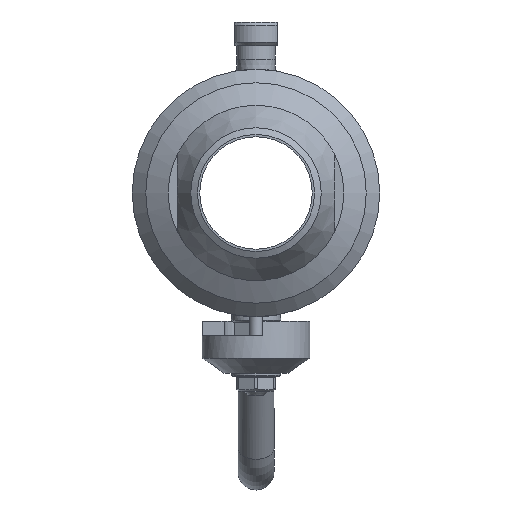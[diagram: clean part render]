
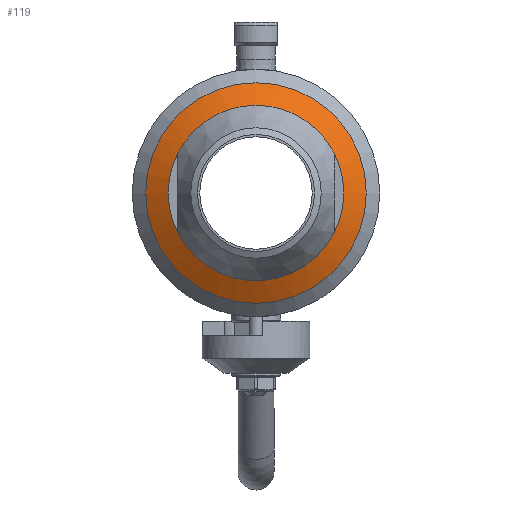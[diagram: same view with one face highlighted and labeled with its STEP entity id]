
A CAD part, left-side view. The second image highlights one B-rep face of the part: STEP entity #119.
In plain terms, the highlighted conical face has half-angle 60 degrees and reference radius 44 mm.
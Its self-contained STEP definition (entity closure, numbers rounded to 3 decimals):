
#119=ADVANCED_FACE('',(#1093),#1095,.T.);
#1093=FACE_OUTER_BOUND('',#1094,.T.);
#1094=EDGE_LOOP('',(#2146,#2147,#2148,#2149,#2150,#2151,#2152,#2153));
#1095=CONICAL_SURFACE('',#1096,44.,1.047);
#1096=AXIS2_PLACEMENT_3D('',#1097,#1098,#1099);
#1097=CARTESIAN_POINT('',(-43.113,0.,0.));
#1098=DIRECTION('',(1.,0.,0.));
#1099=DIRECTION('',(0.,0.,1.));
#2146=ORIENTED_EDGE('',*,*,#3326,.T.);
#2147=ORIENTED_EDGE('',*,*,#3327,.T.);
#2148=ORIENTED_EDGE('',*,*,#3328,.F.);
#2149=ORIENTED_EDGE('',*,*,#3288,.F.);
#2150=ORIENTED_EDGE('',*,*,#3328,.T.);
#2151=ORIENTED_EDGE('',*,*,#3329,.T.);
#2152=ORIENTED_EDGE('',*,*,#3330,.T.);
#2153=ORIENTED_EDGE('',*,*,#3331,.T.);
#3288=EDGE_CURVE('',#3592,#3592,#3594,.T.);
#3326=EDGE_CURVE('',#3664,#3665,#3666,.T.);
#3327=EDGE_CURVE('',#3665,#3667,#3668,.T.);
#3328=EDGE_CURVE('',#3592,#3667,#3669,.T.);
#3329=EDGE_CURVE('',#3667,#3670,#3671,.T.);
#3330=EDGE_CURVE('',#3670,#3672,#3673,.T.);
#3331=EDGE_CURVE('',#3672,#3664,#3674,.T.);
#3592=VERTEX_POINT('',#4498);
#3594=CIRCLE('',#4502,49.);
#3664=VERTEX_POINT('',#4775);
#3665=VERTEX_POINT('',#4776);
#3666=CIRCLE('',#4777,39.);
#3667=VERTEX_POINT('',#4781);
#3668=CIRCLE('',#4782,39.);
#3669=LINE('',#4786,#4787);
#3670=VERTEX_POINT('',#4789);
#3671=CIRCLE('',#4790,39.);
#3672=VERTEX_POINT('',#4794);
#3673=CIRCLE('',#4795,39.);
#3674=CIRCLE('',#4799,39.);
#4498=CARTESIAN_POINT('',(-40.226,0.,49.));
#4502=AXIS2_PLACEMENT_3D('',#4503,#4504,#4505);
#4503=CARTESIAN_POINT('',(-40.226,0.,0.));
#4504=DIRECTION('',(1.,0.,0.));
#4505=DIRECTION('',(0.,0.,1.));
#4775=CARTESIAN_POINT('',(-46.,35.,-17.205));
#4776=CARTESIAN_POINT('',(-46.,35.,17.205));
#4777=AXIS2_PLACEMENT_3D('',#4778,#4779,#4780);
#4778=CARTESIAN_POINT('',(-46.,0.,0.));
#4779=DIRECTION('',(1.,0.,0.));
#4780=DIRECTION('',(0.,0.897,-0.441));
#4781=CARTESIAN_POINT('',(-46.,0.,39.));
#4782=AXIS2_PLACEMENT_3D('',#4783,#4784,#4785);
#4783=CARTESIAN_POINT('',(-46.,0.,0.));
#4784=DIRECTION('',(1.,0.,0.));
#4785=DIRECTION('',(0.,0.897,0.441));
#4786=CARTESIAN_POINT('',(-40.226,0.,49.));
#4787=VECTOR('',#4788,1.);
#4788=DIRECTION('',(-0.5,0.,-0.866));
#4789=CARTESIAN_POINT('',(-46.,-35.,17.205));
#4790=AXIS2_PLACEMENT_3D('',#4791,#4792,#4793);
#4791=CARTESIAN_POINT('',(-46.,0.,0.));
#4792=DIRECTION('',(1.,0.,0.));
#4793=DIRECTION('',(0.,0.,1.));
#4794=CARTESIAN_POINT('',(-46.,-35.,-17.205));
#4795=AXIS2_PLACEMENT_3D('',#4796,#4797,#4798);
#4796=CARTESIAN_POINT('',(-46.,0.,0.));
#4797=DIRECTION('',(1.,0.,0.));
#4798=DIRECTION('',(0.,-0.897,0.441));
#4799=AXIS2_PLACEMENT_3D('',#4800,#4801,#4802);
#4800=CARTESIAN_POINT('',(-46.,0.,0.));
#4801=DIRECTION('',(1.,0.,0.));
#4802=DIRECTION('',(0.,-0.897,-0.441));
